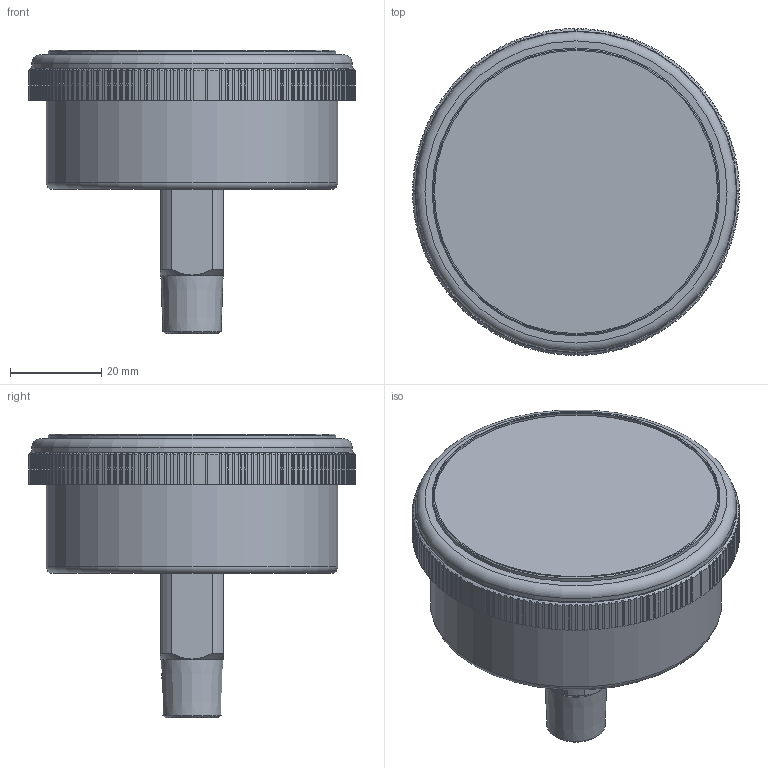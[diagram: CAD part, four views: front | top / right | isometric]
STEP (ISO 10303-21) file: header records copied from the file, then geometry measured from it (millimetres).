
FILE_DESCRIPTION(/* description */ (''),/* implementation_level */ '2;1');
FILE_NAME(/* name */ 'P800_63PI_CENTER BACK MOUNT_NPT(M).stp',/* time_stamp */ '2025-04-01T08:28:49+09:00',/* author */ ('wise-209'),/* organization */ (''),/* preprocessor_version */ 'ST-DEVELOPER v19.2',/* originating_system */ 'Autodesk Inventor 2024',/* authorisation */ '');
FILE_SCHEMA (('AUTOMOTIVE_DESIGN { 1 0 10303 214 3 1 1 }'));
Length unit declared in the file: millimetre
Products named in the file (3): P830_50mm_F Type_NPT_ASSY.ipt; P830_50mm_F Type_14in NPT_SHANK; COVER
Assembly tree (2 placements, depth 2):
  P830_50mm_F Type_NPT_ASSY.ipt
    P830_50mm_F Type_14in NPT_SHANK
    COVER
Bounding box: 71.5 x 71.5 x 62.1 mm (x, y, z)
Volume: 109907.3 mm3; surface area: 16712.5 mm2
Topology: 2 solids, 2 shells, 609 faces, 1799 edges, 1198 vertices
Faces by surface type: plane 448, cylinder 152, cone 7, torus 2
Full cylindrical faces by diameter (mm): 3 x1, 63 x1, 63.8 x1, 70.1 x1
Entity records: 20160 total; most frequent: CARTESIAN_POINT 3911, ORIENTED_EDGE 3598, DIRECTION 3199, EDGE_CURVE 1799, LINE 1327, VECTOR 1327, VERTEX_POINT 1198, AXIS2_PLACEMENT_3D 936
